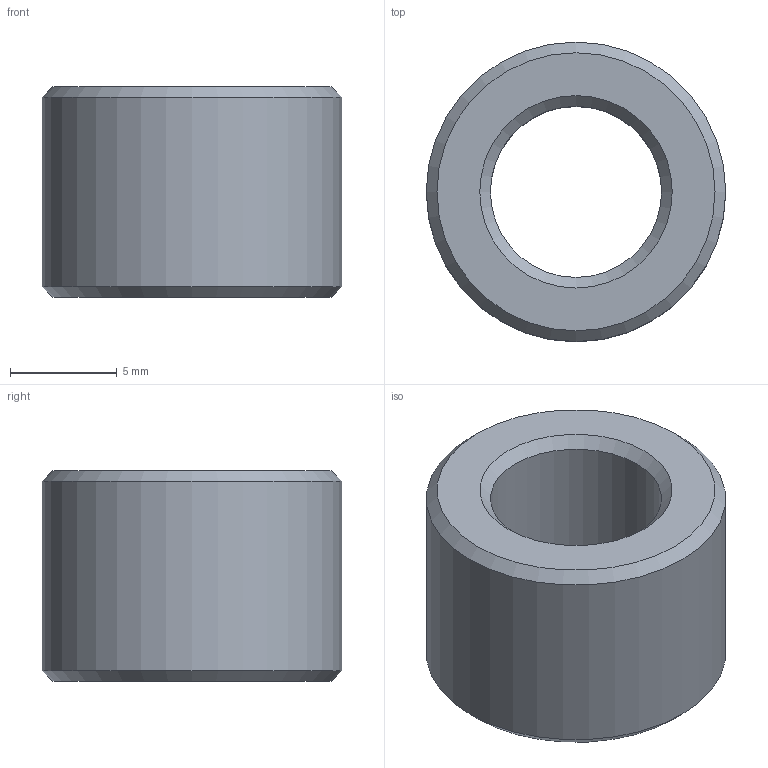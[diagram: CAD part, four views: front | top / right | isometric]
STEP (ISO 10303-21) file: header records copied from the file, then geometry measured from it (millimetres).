
FILE_DESCRIPTION(/* description */ (''),/* implementation_level */ '2;1');
FILE_NAME(/* name */ 'D:\IN 制图\设备\手动剥线机带侧刀4.02\工程图\套筒 8.stp',/* time_stamp */ '2026-06-23T07:44:12+08:00',/* author */ ('ROG'),/* organization */ (''),/* preprocessor_version */ 'ST-DEVELOPER v19',/* originating_system */ 'Autodesk Inventor 2023',/* authorisation */ '');
FILE_SCHEMA (('AUTOMOTIVE_DESIGN { 1 0 10303 214 3 1 1 }'));
Length unit declared in the file: millimetre
Products named in the file (1): 套筒 8
Bounding box: 14 x 14 x 9.85 mm (x, y, z)
Volume: 1003.9 mm3; surface area: 847.6 mm2
Topology: 1 solids, 1 shells, 8 faces, 16 edges, 10 vertices
Faces by surface type: cone 4, plane 2, cylinder 2
Full cylindrical faces by diameter (mm): 8 x1, 14 x1
Entity records: 278 total; most frequent: DIRECTION 44, CARTESIAN_POINT 35, ORIENTED_EDGE 32, AXIS2_PLACEMENT_3D 19, EDGE_CURVE 16, EDGE_LOOP 10, CIRCLE 10, VERTEX_POINT 10
